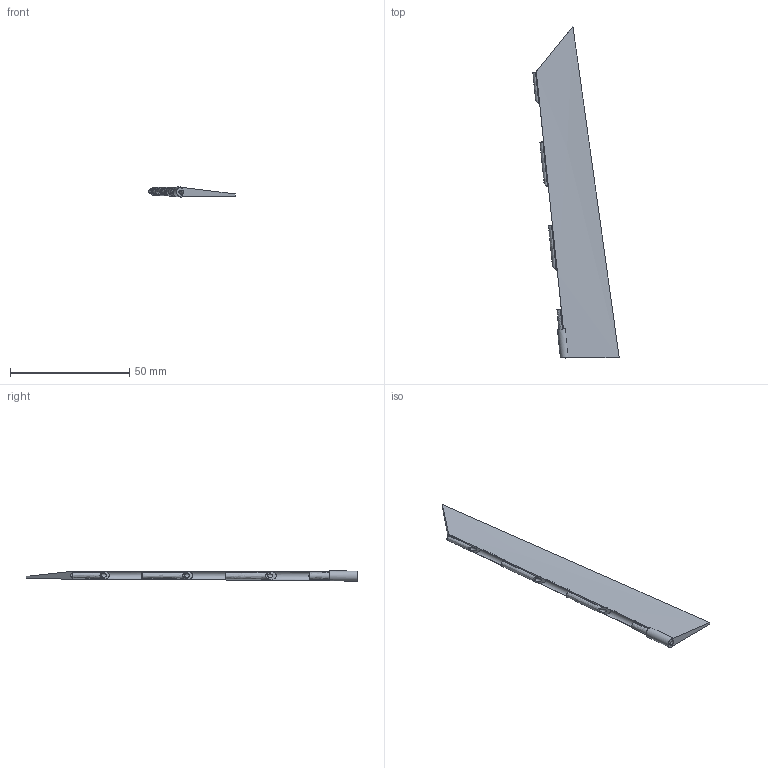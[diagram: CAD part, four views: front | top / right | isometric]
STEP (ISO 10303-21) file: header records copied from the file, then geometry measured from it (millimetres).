
FILE_DESCRIPTION(('SkyG Speed 120B - revision C7B-1 - 2026-10-09','AR-aileron-right'),'2;1');
FILE_NAME('AR-aileron-right_C7B-1','2026-10-09T15:13:01',('Author'),( 'Open CASCADE'),'Open CASCADE STEP processor 7.9','Open CASCADE 7.9' ,'Unknown');
FILE_SCHEMA(('AUTOMOTIVE_DESIGN { 1 0 10303 214 1 1 1 1 }'));
Length unit declared in the file: millimetre
Products named in the file (1): AR-aileron-right C7B-1
Bounding box: 36.2 x 139.16 x 4.23 mm (x, y, z)
Volume: 5197.7 mm3; surface area: 6443.9 mm2
Topology: 1 solids, 1 shells, 43 faces, 125 edges, 84 vertices
Faces by surface type: bspline 17, plane 16, cylinder 9, cone 1
Full cylindrical faces by diameter (mm): 1.6 x4
Entity records: 8043 total; most frequent: CARTESIAN_POINT 6034, ORIENTED_EDGE 250, B_SPLINE_CURVE_WITH_KNOTS 250, PCURVE 250, DEFINITIONAL_REPRESENTATION 250, DIRECTION 208, EDGE_CURVE 125, SURFACE_CURVE 120
